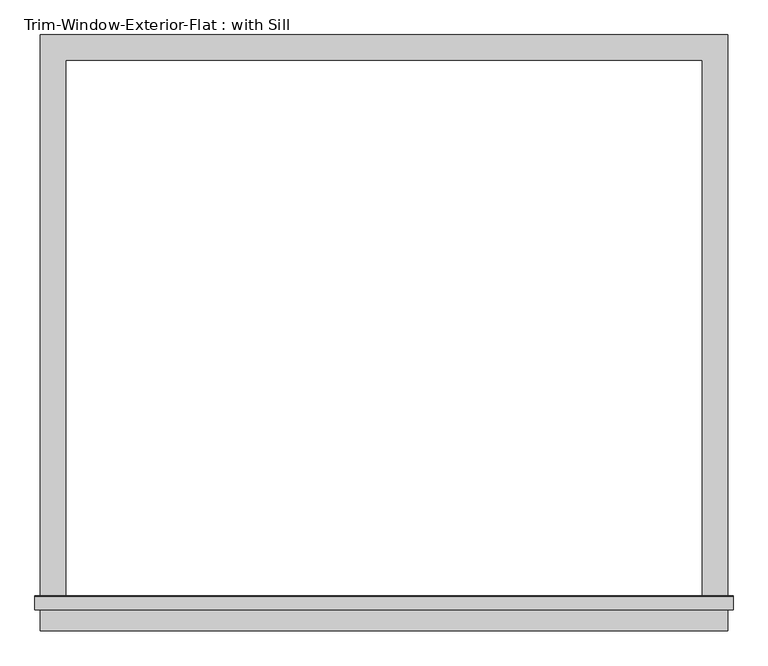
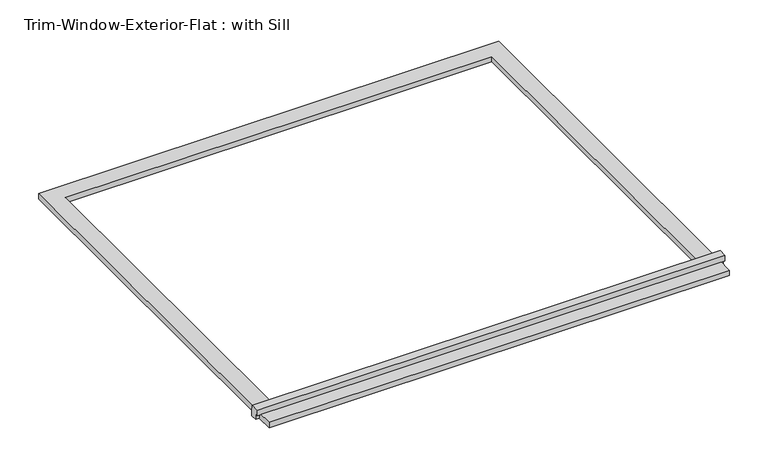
"""IFC4 building model written with IfcOpenShell, lengths in millimetres: proxy geometry, Trim-Window-Exterior-Flat : with Sill."""

from ifc_helpers import new_model, si_unit, frame, origin, origin_with_axes, place, context, project, spatial, polyline, outline, extrude, source, transform, mapped, element, save


def trim_window_exterior_flat_with_sill_5295fde9(model_context):
    return source(origin(), model_context, "Body", "SweptSolid", [
        extrude(outline(polyline([(781.05, -1241.3823709), (781.05, -1298.5323709), (-781.05, -1298.5323709), (-781.05, -1241.3823709), (781.05, -1241.3823709)])), origin_with_axes(), (0.0, 0.0, 1.0), 19.05),
        extrude(outline(polyline([(-1250.95, 38.1), (-1221.6580645, 38.1), (-1219.2, 19.05), (-1219.2, 0.0), (-1241.3823709, 0.0), (-1241.3823709, 19.05), (-1250.95, 19.05), (-1250.95, 38.1)])), frame((-793.75, 0.0, 0.0), z_axis=(1.0, 0.0, 0.0), x_axis=(0.0, 1.0, 0.0)), (0.0, 0.0, 1.0), 1587.5),
        extrude(outline(polyline([(-781.05, 57.15), (781.05, 57.15), (781.05, -1219.2), (723.9, -1219.2), (723.9, 0.0), (-723.9, 0.0), (-723.9, -1219.2), (-781.05, -1219.2), (-781.05, 57.15)])), origin_with_axes(), (0.0, 0.0, 1.0), 19.05),
    ])


if __name__ == "__main__":
    model = new_model("IFC4")
    model_context = context("Model", 3, world=origin())
    ifc_project = project(units=[si_unit("LENGTHUNIT", "METRE", prefix="MILLI")], contexts=[model_context])
    site = spatial("IfcSite", under=ifc_project)
    building = spatial("IfcBuilding", under=site)
    placement = place(None, origin())
    trim_window_exterior_flat_with_sill_shape = trim_window_exterior_flat_with_sill_5295fde9(model_context)
    element("IfcBuildingElementProxy", 1, Name="Trim-Window-Exterior-Flat : with Sill", ObjectType="Trim-Window-Exterior-Flat : with Sill", at=placement, inside=building, context=model_context, shape_type="MappedRepresentation", body=[
        mapped(trim_window_exterior_flat_with_sill_shape, transform((0.0, 0.0, 0.0), x_axis=(1.0, 0.0, 0.0), y_axis=(0.0, 1.0, 0.0), z_axis=(0.0, 0.0, 1.0))),
    ])
    save(model, "model.ifc")
